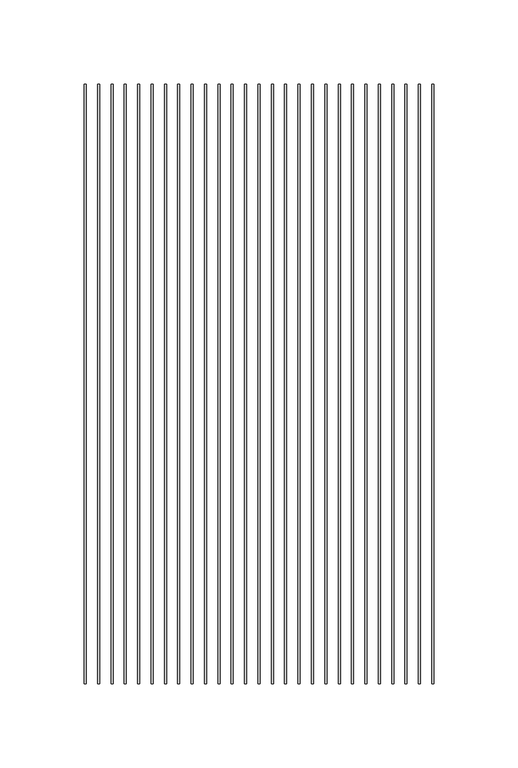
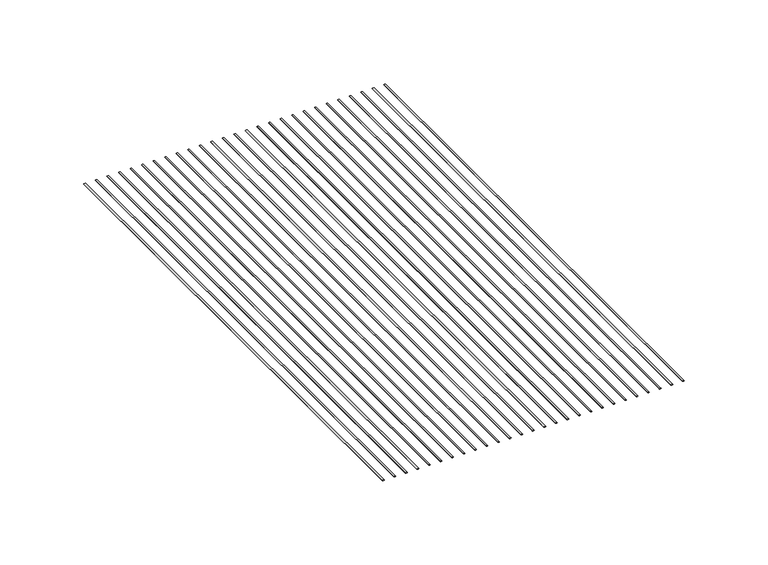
"""IFC4 building model written with IfcOpenShell, lengths in millimetres: proxy geometry, CRAi Generic Model Mesh Piece Face Based : CRAi Generic Model Mesh Piece Face Based."""

from ifc_helpers import new_model, si_unit, point, frame, origin, place, context, project, spatial, ellipse_curve, trimmed, source, transform, mapped, element, save
from ifc_brep_helpers import plane_surface, extruded_surface, advanced_brep


def generic_models_6aeff0d6(model_context):
    return source(origin(), model_context, "Body", "AdvancedBrep", [
        advanced_brep(
        [(-164.9015625, -177.8, -2.5796875), (-163.7109375, -177.8, -2.5796875), (-164.9015625, 177.8, -2.5796875), (-163.7109375, 177.8, -2.5796875)],
        [
            (0, 1, ellipse_curve(frame((-164.30625, -177.8, -2.5796875), z_axis=(0.0, -1.0, 0.0), x_axis=(1.0, 0.0, 0.0)), 0.5953125, 0.1984375)),
            (1, 0, ellipse_curve(frame((-164.30625, -177.8, -2.5796875), z_axis=(0.0, -1.0, 0.0), x_axis=(1.0, 0.0, 0.0)), 0.5953125, 0.1984375)),
            (2, 3, ellipse_curve(frame((-164.30625, 177.8, -2.5796875), z_axis=(0.0, 1.0, 0.0), x_axis=(1.0, 0.0, 0.0)), 0.5953125, 0.1984375)),
            (3, 2, ellipse_curve(frame((-164.30625, 177.8, -2.5796875), z_axis=(0.0, 1.0, 0.0), x_axis=(1.0, 0.0, 0.0)), 0.5953125, 0.1984375)),
            (0, 2),
            (3, 1),
        ],
        [
            plane_surface(frame((-164.30625, -177.8, -2.5796875), z_axis=(0.0, -1.0, 0.0), x_axis=(0.0, 0.0, 1.0))),
            plane_surface(frame((-164.30625, 177.8, -2.5796875), z_axis=(0.0, 1.0, 0.0), x_axis=(0.0, 0.0, 1.0))),
            extruded_surface(trimmed(ellipse_curve(frame((-164.30625, 177.8, -2.5796875), z_axis=(0.0, -1.0, 0.0), x_axis=(1.0, 0.0, 0.0)), 0.5953125, 0.1984375), [point((-164.9015625, 177.8, -2.5796875))], [point((-163.7109375, 177.8, -2.5796875))], True, "CARTESIAN"), (0.0, -355.6, 0.0), 355.6),
            extruded_surface(trimmed(ellipse_curve(frame((-164.30625, 177.8, -2.5796875), z_axis=(0.0, -1.0, 0.0), x_axis=(1.0, 0.0, 0.0)), 0.5953125, 0.1984375), [point((-163.7109375, 177.8, -2.5796875))], [point((-164.9015625, 177.8, -2.5796875))], True, "CARTESIAN"), (0.0, -355.6, 0.0), 355.6),
        ],
        [
            (0, [[1, 2]]),
            (1, [[3, 4]]),
            (2, [[-1, 5, -4, 6]]),
            (3, [[-2, -6, -3, -5]]),
        ],
    ),
        advanced_brep(
        [(-156.9640625, -177.8, -2.5796875), (-155.7734375, -177.8, -2.5796875), (-156.9640625, 177.8, -2.5796875), (-155.7734375, 177.8, -2.5796875)],
        [
            (0, 1, ellipse_curve(frame((-156.36875, -177.8, -2.5796875), z_axis=(0.0, -1.0, 0.0), x_axis=(1.0, 0.0, 0.0)), 0.5953125, 0.1984375)),
            (1, 0, ellipse_curve(frame((-156.36875, -177.8, -2.5796875), z_axis=(0.0, -1.0, 0.0), x_axis=(1.0, 0.0, 0.0)), 0.5953125, 0.1984375)),
            (2, 3, ellipse_curve(frame((-156.36875, 177.8, -2.5796875), z_axis=(0.0, 1.0, 0.0), x_axis=(1.0, 0.0, 0.0)), 0.5953125, 0.1984375)),
            (3, 2, ellipse_curve(frame((-156.36875, 177.8, -2.5796875), z_axis=(0.0, 1.0, 0.0), x_axis=(1.0, 0.0, 0.0)), 0.5953125, 0.1984375)),
            (0, 2),
            (3, 1),
        ],
        [
            plane_surface(frame((-156.36875, -177.8, -2.5796875), z_axis=(0.0, -1.0, 0.0), x_axis=(0.0, 0.0, 1.0))),
            plane_surface(frame((-156.36875, 177.8, -2.5796875), z_axis=(0.0, 1.0, 0.0), x_axis=(0.0, 0.0, 1.0))),
            extruded_surface(trimmed(ellipse_curve(frame((-156.36875, 177.8, -2.5796875), z_axis=(0.0, -1.0, 0.0), x_axis=(1.0, 0.0, 0.0)), 0.5953125, 0.1984375), [point((-156.9640625, 177.8, -2.5796875))], [point((-155.7734375, 177.8, -2.5796875))], True, "CARTESIAN"), (0.0, -355.6, 0.0), 355.6),
            extruded_surface(trimmed(ellipse_curve(frame((-156.36875, 177.8, -2.5796875), z_axis=(0.0, -1.0, 0.0), x_axis=(1.0, 0.0, 0.0)), 0.5953125, 0.1984375), [point((-155.7734375, 177.8, -2.5796875))], [point((-156.9640625, 177.8, -2.5796875))], True, "CARTESIAN"), (0.0, -355.6, 0.0), 355.6),
        ],
        [
            (0, [[1, 2]]),
            (1, [[3, 4]]),
            (2, [[-1, 5, -4, 6]]),
            (3, [[-2, -6, -3, -5]]),
        ],
    ),
        advanced_brep(
        [(-149.0265625, -177.8, -2.5796875), (-147.8359375, -177.8, -2.5796875), (-149.0265625, 177.8, -2.5796875), (-147.8359375, 177.8, -2.5796875)],
        [
            (0, 1, ellipse_curve(frame((-148.43125, -177.8, -2.5796875), z_axis=(0.0, -1.0, 0.0), x_axis=(1.0, 0.0, 0.0)), 0.5953125, 0.1984375)),
            (1, 0, ellipse_curve(frame((-148.43125, -177.8, -2.5796875), z_axis=(0.0, -1.0, 0.0), x_axis=(1.0, 0.0, 0.0)), 0.5953125, 0.1984375)),
            (2, 3, ellipse_curve(frame((-148.43125, 177.8, -2.5796875), z_axis=(0.0, 1.0, 0.0), x_axis=(1.0, 0.0, 0.0)), 0.5953125, 0.1984375)),
            (3, 2, ellipse_curve(frame((-148.43125, 177.8, -2.5796875), z_axis=(0.0, 1.0, 0.0), x_axis=(1.0, 0.0, 0.0)), 0.5953125, 0.1984375)),
            (0, 2),
            (3, 1),
        ],
        [
            plane_surface(frame((-148.43125, -177.8, -2.5796875), z_axis=(0.0, -1.0, 0.0), x_axis=(0.0, 0.0, 1.0))),
            plane_surface(frame((-148.43125, 177.8, -2.5796875), z_axis=(0.0, 1.0, 0.0), x_axis=(0.0, 0.0, 1.0))),
            extruded_surface(trimmed(ellipse_curve(frame((-148.43125, 177.8, -2.5796875), z_axis=(0.0, -1.0, 0.0), x_axis=(1.0, 0.0, 0.0)), 0.5953125, 0.1984375), [point((-149.0265625, 177.8, -2.5796875))], [point((-147.8359375, 177.8, -2.5796875))], True, "CARTESIAN"), (0.0, -355.6, 0.0), 355.6),
            extruded_surface(trimmed(ellipse_curve(frame((-148.43125, 177.8, -2.5796875), z_axis=(0.0, -1.0, 0.0), x_axis=(1.0, 0.0, 0.0)), 0.5953125, 0.1984375), [point((-147.8359375, 177.8, -2.5796875))], [point((-149.0265625, 177.8, -2.5796875))], True, "CARTESIAN"), (0.0, -355.6, 0.0), 355.6),
        ],
        [
            (0, [[1, 2]]),
            (1, [[3, 4]]),
            (2, [[-1, 5, -4, 6]]),
            (3, [[-2, -6, -3, -5]]),
        ],
    ),
        advanced_brep(
        [(-141.0890625, -177.8, -2.5796875), (-139.8984375, -177.8, -2.5796875), (-141.0890625, 177.8, -2.5796875), (-139.8984375, 177.8, -2.5796875)],
        [
            (0, 1, ellipse_curve(frame((-140.49375, -177.8, -2.5796875), z_axis=(0.0, -1.0, 0.0), x_axis=(1.0, 0.0, 0.0)), 0.5953125, 0.1984375)),
            (1, 0, ellipse_curve(frame((-140.49375, -177.8, -2.5796875), z_axis=(0.0, -1.0, 0.0), x_axis=(1.0, 0.0, 0.0)), 0.5953125, 0.1984375)),
            (2, 3, ellipse_curve(frame((-140.49375, 177.8, -2.5796875), z_axis=(0.0, 1.0, 0.0), x_axis=(1.0, 0.0, 0.0)), 0.5953125, 0.1984375)),
            (3, 2, ellipse_curve(frame((-140.49375, 177.8, -2.5796875), z_axis=(0.0, 1.0, 0.0), x_axis=(1.0, 0.0, 0.0)), 0.5953125, 0.1984375)),
            (0, 2),
            (3, 1),
        ],
        [
            plane_surface(frame((-140.49375, -177.8, -2.5796875), z_axis=(0.0, -1.0, 0.0), x_axis=(0.0, 0.0, 1.0))),
            plane_surface(frame((-140.49375, 177.8, -2.5796875), z_axis=(0.0, 1.0, 0.0), x_axis=(0.0, 0.0, 1.0))),
            extruded_surface(trimmed(ellipse_curve(frame((-140.49375, 177.8, -2.5796875), z_axis=(0.0, -1.0, 0.0), x_axis=(1.0, 0.0, 0.0)), 0.5953125, 0.1984375), [point((-141.0890625, 177.8, -2.5796875))], [point((-139.8984375, 177.8, -2.5796875))], True, "CARTESIAN"), (0.0, -355.6, 0.0), 355.6),
            extruded_surface(trimmed(ellipse_curve(frame((-140.49375, 177.8, -2.5796875), z_axis=(0.0, -1.0, 0.0), x_axis=(1.0, 0.0, 0.0)), 0.5953125, 0.1984375), [point((-139.8984375, 177.8, -2.5796875))], [point((-141.0890625, 177.8, -2.5796875))], True, "CARTESIAN"), (0.0, -355.6, 0.0), 355.6),
        ],
        [
            (0, [[1, 2]]),
            (1, [[3, 4]]),
            (2, [[-1, 5, -4, 6]]),
            (3, [[-2, -6, -3, -5]]),
        ],
    ),
        advanced_brep(
        [(-133.1515625, -177.8, -2.5796875), (-131.9609375, -177.8, -2.5796875), (-133.1515625, 177.8, -2.5796875), (-131.9609375, 177.8, -2.5796875)],
        [
            (0, 1, ellipse_curve(frame((-132.55625, -177.8, -2.5796875), z_axis=(0.0, -1.0, 0.0), x_axis=(1.0, 0.0, 0.0)), 0.5953125, 0.1984375)),
            (1, 0, ellipse_curve(frame((-132.55625, -177.8, -2.5796875), z_axis=(0.0, -1.0, 0.0), x_axis=(1.0, 0.0, 0.0)), 0.5953125, 0.1984375)),
            (2, 3, ellipse_curve(frame((-132.55625, 177.8, -2.5796875), z_axis=(0.0, 1.0, 0.0), x_axis=(1.0, 0.0, 0.0)), 0.5953125, 0.1984375)),
            (3, 2, ellipse_curve(frame((-132.55625, 177.8, -2.5796875), z_axis=(0.0, 1.0, 0.0), x_axis=(1.0, 0.0, 0.0)), 0.5953125, 0.1984375)),
            (0, 2),
            (3, 1),
        ],
        [
            plane_surface(frame((-132.55625, -177.8, -2.5796875), z_axis=(0.0, -1.0, 0.0), x_axis=(0.0, 0.0, 1.0))),
            plane_surface(frame((-132.55625, 177.8, -2.5796875), z_axis=(0.0, 1.0, 0.0), x_axis=(0.0, 0.0, 1.0))),
            extruded_surface(trimmed(ellipse_curve(frame((-132.55625, 177.8, -2.5796875), z_axis=(0.0, -1.0, 0.0), x_axis=(1.0, 0.0, 0.0)), 0.5953125, 0.1984375), [point((-133.1515625, 177.8, -2.5796875))], [point((-131.9609375, 177.8, -2.5796875))], True, "CARTESIAN"), (0.0, -355.6, 0.0), 355.6),
            extruded_surface(trimmed(ellipse_curve(frame((-132.55625, 177.8, -2.5796875), z_axis=(0.0, -1.0, 0.0), x_axis=(1.0, 0.0, 0.0)), 0.5953125, 0.1984375), [point((-131.9609375, 177.8, -2.5796875))], [point((-133.1515625, 177.8, -2.5796875))], True, "CARTESIAN"), (0.0, -355.6, 0.0), 355.6),
        ],
        [
            (0, [[1, 2]]),
            (1, [[3, 4]]),
            (2, [[-1, 5, -4, 6]]),
            (3, [[-2, -6, -3, -5]]),
        ],
    ),
        advanced_brep(
        [(-125.2140625, -177.8, -2.5796875), (-124.0234375, -177.8, -2.5796875), (-125.2140625, 177.8, -2.5796875), (-124.0234375, 177.8, -2.5796875)],
        [
            (0, 1, ellipse_curve(frame((-124.61875, -177.8, -2.5796875), z_axis=(0.0, -1.0, 0.0), x_axis=(1.0, 0.0, 0.0)), 0.5953125, 0.1984375)),
            (1, 0, ellipse_curve(frame((-124.61875, -177.8, -2.5796875), z_axis=(0.0, -1.0, 0.0), x_axis=(1.0, 0.0, 0.0)), 0.5953125, 0.1984375)),
            (2, 3, ellipse_curve(frame((-124.61875, 177.8, -2.5796875), z_axis=(0.0, 1.0, 0.0), x_axis=(1.0, 0.0, 0.0)), 0.5953125, 0.1984375)),
            (3, 2, ellipse_curve(frame((-124.61875, 177.8, -2.5796875), z_axis=(0.0, 1.0, 0.0), x_axis=(1.0, 0.0, 0.0)), 0.5953125, 0.1984375)),
            (0, 2),
            (3, 1),
        ],
        [
            plane_surface(frame((-124.61875, -177.8, -2.5796875), z_axis=(0.0, -1.0, 0.0), x_axis=(0.0, 0.0, 1.0))),
            plane_surface(frame((-124.61875, 177.8, -2.5796875), z_axis=(0.0, 1.0, 0.0), x_axis=(0.0, 0.0, 1.0))),
            extruded_surface(trimmed(ellipse_curve(frame((-124.61875, 177.8, -2.5796875), z_axis=(0.0, -1.0, 0.0), x_axis=(1.0, 0.0, 0.0)), 0.5953125, 0.1984375), [point((-125.2140625, 177.8, -2.5796875))], [point((-124.0234375, 177.8, -2.5796875))], True, "CARTESIAN"), (0.0, -355.6, 0.0), 355.6),
            extruded_surface(trimmed(ellipse_curve(frame((-124.61875, 177.8, -2.5796875), z_axis=(0.0, -1.0, 0.0), x_axis=(1.0, 0.0, 0.0)), 0.5953125, 0.1984375), [point((-124.0234375, 177.8, -2.5796875))], [point((-125.2140625, 177.8, -2.5796875))], True, "CARTESIAN"), (0.0, -355.6, 0.0), 355.6),
        ],
        [
            (0, [[1, 2]]),
            (1, [[3, 4]]),
            (2, [[-1, 5, -4, 6]]),
            (3, [[-2, -6, -3, -5]]),
        ],
    ),
        advanced_brep(
        [(-117.2765625, -177.8, -2.5796875), (-116.0859375, -177.8, -2.5796875), (-117.2765625, 177.8, -2.5796875), (-116.0859375, 177.8, -2.5796875)],
        [
            (0, 1, ellipse_curve(frame((-116.68125, -177.8, -2.5796875), z_axis=(0.0, -1.0, 0.0), x_axis=(1.0, 0.0, 0.0)), 0.5953125, 0.1984375)),
            (1, 0, ellipse_curve(frame((-116.68125, -177.8, -2.5796875), z_axis=(0.0, -1.0, 0.0), x_axis=(1.0, 0.0, 0.0)), 0.5953125, 0.1984375)),
            (2, 3, ellipse_curve(frame((-116.68125, 177.8, -2.5796875), z_axis=(0.0, 1.0, 0.0), x_axis=(1.0, 0.0, 0.0)), 0.5953125, 0.1984375)),
            (3, 2, ellipse_curve(frame((-116.68125, 177.8, -2.5796875), z_axis=(0.0, 1.0, 0.0), x_axis=(1.0, 0.0, 0.0)), 0.5953125, 0.1984375)),
            (0, 2),
            (3, 1),
        ],
        [
            plane_surface(frame((-116.68125, -177.8, -2.5796875), z_axis=(0.0, -1.0, 0.0), x_axis=(0.0, 0.0, 1.0))),
            plane_surface(frame((-116.68125, 177.8, -2.5796875), z_axis=(0.0, 1.0, 0.0), x_axis=(0.0, 0.0, 1.0))),
            extruded_surface(trimmed(ellipse_curve(frame((-116.68125, 177.8, -2.5796875), z_axis=(0.0, -1.0, 0.0), x_axis=(1.0, 0.0, 0.0)), 0.5953125, 0.1984375), [point((-117.2765625, 177.8, -2.5796875))], [point((-116.0859375, 177.8, -2.5796875))], True, "CARTESIAN"), (0.0, -355.6, 0.0), 355.6),
            extruded_surface(trimmed(ellipse_curve(frame((-116.68125, 177.8, -2.5796875), z_axis=(0.0, -1.0, 0.0), x_axis=(1.0, 0.0, 0.0)), 0.5953125, 0.1984375), [point((-116.0859375, 177.8, -2.5796875))], [point((-117.2765625, 177.8, -2.5796875))], True, "CARTESIAN"), (0.0, -355.6, 0.0), 355.6),
        ],
        [
            (0, [[1, 2]]),
            (1, [[3, 4]]),
            (2, [[-1, 5, -4, 6]]),
            (3, [[-2, -6, -3, -5]]),
        ],
    ),
        advanced_brep(
        [(-109.3390625, -177.8, -2.5796875), (-108.1484375, -177.8, -2.5796875), (-109.3390625, 177.8, -2.5796875), (-108.1484375, 177.8, -2.5796875)],
        [
            (0, 1, ellipse_curve(frame((-108.74375, -177.8, -2.5796875), z_axis=(0.0, -1.0, 0.0), x_axis=(1.0, 0.0, 0.0)), 0.5953125, 0.1984375)),
            (1, 0, ellipse_curve(frame((-108.74375, -177.8, -2.5796875), z_axis=(0.0, -1.0, 0.0), x_axis=(1.0, 0.0, 0.0)), 0.5953125, 0.1984375)),
            (2, 3, ellipse_curve(frame((-108.74375, 177.8, -2.5796875), z_axis=(0.0, 1.0, 0.0), x_axis=(1.0, 0.0, 0.0)), 0.5953125, 0.1984375)),
            (3, 2, ellipse_curve(frame((-108.74375, 177.8, -2.5796875), z_axis=(0.0, 1.0, 0.0), x_axis=(1.0, 0.0, 0.0)), 0.5953125, 0.1984375)),
            (0, 2),
            (3, 1),
        ],
        [
            plane_surface(frame((-108.74375, -177.8, -2.5796875), z_axis=(0.0, -1.0, 0.0), x_axis=(0.0, 0.0, 1.0))),
            plane_surface(frame((-108.74375, 177.8, -2.5796875), z_axis=(0.0, 1.0, 0.0), x_axis=(0.0, 0.0, 1.0))),
            extruded_surface(trimmed(ellipse_curve(frame((-108.74375, 177.8, -2.5796875), z_axis=(0.0, -1.0, 0.0), x_axis=(1.0, 0.0, 0.0)), 0.5953125, 0.1984375), [point((-109.3390625, 177.8, -2.5796875))], [point((-108.1484375, 177.8, -2.5796875))], True, "CARTESIAN"), (0.0, -355.6, 0.0), 355.6),
            extruded_surface(trimmed(ellipse_curve(frame((-108.74375, 177.8, -2.5796875), z_axis=(0.0, -1.0, 0.0), x_axis=(1.0, 0.0, 0.0)), 0.5953125, 0.1984375), [point((-108.1484375, 177.8, -2.5796875))], [point((-109.3390625, 177.8, -2.5796875))], True, "CARTESIAN"), (0.0, -355.6, 0.0), 355.6),
        ],
        [
            (0, [[1, 2]]),
            (1, [[3, 4]]),
            (2, [[-1, 5, -4, 6]]),
            (3, [[-2, -6, -3, -5]]),
        ],
    ),
        advanced_brep(
        [(-101.4015625, -177.8, -2.5796875), (-100.2109375, -177.8, -2.5796875), (-101.4015625, 177.8, -2.5796875), (-100.2109375, 177.8, -2.5796875)],
        [
            (0, 1, ellipse_curve(frame((-100.80625, -177.8, -2.5796875), z_axis=(0.0, -1.0, 0.0), x_axis=(1.0, 0.0, 0.0)), 0.5953125, 0.1984375)),
            (1, 0, ellipse_curve(frame((-100.80625, -177.8, -2.5796875), z_axis=(0.0, -1.0, 0.0), x_axis=(1.0, 0.0, 0.0)), 0.5953125, 0.1984375)),
            (2, 3, ellipse_curve(frame((-100.80625, 177.8, -2.5796875), z_axis=(0.0, 1.0, 0.0), x_axis=(1.0, 0.0, 0.0)), 0.5953125, 0.1984375)),
            (3, 2, ellipse_curve(frame((-100.80625, 177.8, -2.5796875), z_axis=(0.0, 1.0, 0.0), x_axis=(1.0, 0.0, 0.0)), 0.5953125, 0.1984375)),
            (0, 2),
            (3, 1),
        ],
        [
            plane_surface(frame((-100.80625, -177.8, -2.5796875), z_axis=(0.0, -1.0, 0.0), x_axis=(0.0, 0.0, 1.0))),
            plane_surface(frame((-100.80625, 177.8, -2.5796875), z_axis=(0.0, 1.0, 0.0), x_axis=(0.0, 0.0, 1.0))),
            extruded_surface(trimmed(ellipse_curve(frame((-100.80625, 177.8, -2.5796875), z_axis=(0.0, -1.0, 0.0), x_axis=(1.0, 0.0, 0.0)), 0.5953125, 0.1984375), [point((-101.4015625, 177.8, -2.5796875))], [point((-100.2109375, 177.8, -2.5796875))], True, "CARTESIAN"), (0.0, -355.6, 0.0), 355.6),
            extruded_surface(trimmed(ellipse_curve(frame((-100.80625, 177.8, -2.5796875), z_axis=(0.0, -1.0, 0.0), x_axis=(1.0, 0.0, 0.0)), 0.5953125, 0.1984375), [point((-100.2109375, 177.8, -2.5796875))], [point((-101.4015625, 177.8, -2.5796875))], True, "CARTESIAN"), (0.0, -355.6, 0.0), 355.6),
        ],
        [
            (0, [[1, 2]]),
            (1, [[3, 4]]),
            (2, [[-1, 5, -4, 6]]),
            (3, [[-2, -6, -3, -5]]),
        ],
    ),
        advanced_brep(
        [(-93.4640625, -177.8, -2.5796875), (-92.2734375, -177.8, -2.5796875), (-93.4640625, 177.8, -2.5796875), (-92.2734375, 177.8, -2.5796875)],
        [
            (0, 1, ellipse_curve(frame((-92.86875, -177.8, -2.5796875), z_axis=(0.0, -1.0, 0.0), x_axis=(1.0, 0.0, 0.0)), 0.5953125, 0.1984375)),
            (1, 0, ellipse_curve(frame((-92.86875, -177.8, -2.5796875), z_axis=(0.0, -1.0, 0.0), x_axis=(1.0, 0.0, 0.0)), 0.5953125, 0.1984375)),
            (2, 3, ellipse_curve(frame((-92.86875, 177.8, -2.5796875), z_axis=(0.0, 1.0, 0.0), x_axis=(1.0, 0.0, 0.0)), 0.5953125, 0.1984375)),
            (3, 2, ellipse_curve(frame((-92.86875, 177.8, -2.5796875), z_axis=(0.0, 1.0, 0.0), x_axis=(1.0, 0.0, 0.0)), 0.5953125, 0.1984375)),
            (0, 2),
            (3, 1),
        ],
        [
            plane_surface(frame((-92.86875, -177.8, -2.5796875), z_axis=(0.0, -1.0, 0.0), x_axis=(0.0, 0.0, 1.0))),
            plane_surface(frame((-92.86875, 177.8, -2.5796875), z_axis=(0.0, 1.0, 0.0), x_axis=(0.0, 0.0, 1.0))),
            extruded_surface(trimmed(ellipse_curve(frame((-92.86875, 177.8, -2.5796875), z_axis=(0.0, -1.0, 0.0), x_axis=(1.0, 0.0, 0.0)), 0.5953125, 0.1984375), [point((-93.4640625, 177.8, -2.5796875))], [point((-92.2734375, 177.8, -2.5796875))], True, "CARTESIAN"), (0.0, -355.6, 0.0), 355.6),
            extruded_surface(trimmed(ellipse_curve(frame((-92.86875, 177.8, -2.5796875), z_axis=(0.0, -1.0, 0.0), x_axis=(1.0, 0.0, 0.0)), 0.5953125, 0.1984375), [point((-92.2734375, 177.8, -2.5796875))], [point((-93.4640625, 177.8, -2.5796875))], True, "CARTESIAN"), (0.0, -355.6, 0.0), 355.6),
        ],
        [
            (0, [[1, 2]]),
            (1, [[3, 4]]),
            (2, [[-1, 5, -4, 6]]),
            (3, [[-2, -6, -3, -5]]),
        ],
    ),
        advanced_brep(
        [(-85.5265625, -177.8, -2.5796875), (-84.3359375, -177.8, -2.5796875), (-85.5265625, 177.8, -2.5796875), (-84.3359375, 177.8, -2.5796875)],
        [
            (0, 1, ellipse_curve(frame((-84.93125, -177.8, -2.5796875), z_axis=(0.0, -1.0, 0.0), x_axis=(1.0, 0.0, 0.0)), 0.5953125, 0.1984375)),
            (1, 0, ellipse_curve(frame((-84.93125, -177.8, -2.5796875), z_axis=(0.0, -1.0, 0.0), x_axis=(1.0, 0.0, 0.0)), 0.5953125, 0.1984375)),
            (2, 3, ellipse_curve(frame((-84.93125, 177.8, -2.5796875), z_axis=(0.0, 1.0, 0.0), x_axis=(1.0, 0.0, 0.0)), 0.5953125, 0.1984375)),
            (3, 2, ellipse_curve(frame((-84.93125, 177.8, -2.5796875), z_axis=(0.0, 1.0, 0.0), x_axis=(1.0, 0.0, 0.0)), 0.5953125, 0.1984375)),
            (0, 2),
            (3, 1),
        ],
        [
            plane_surface(frame((-84.93125, -177.8, -2.5796875), z_axis=(0.0, -1.0, 0.0), x_axis=(0.0, 0.0, 1.0))),
            plane_surface(frame((-84.93125, 177.8, -2.5796875), z_axis=(0.0, 1.0, 0.0), x_axis=(0.0, 0.0, 1.0))),
            extruded_surface(trimmed(ellipse_curve(frame((-84.93125, 177.8, -2.5796875), z_axis=(0.0, -1.0, 0.0), x_axis=(1.0, 0.0, 0.0)), 0.5953125, 0.1984375), [point((-85.5265625, 177.8, -2.5796875))], [point((-84.3359375, 177.8, -2.5796875))], True, "CARTESIAN"), (0.0, -355.6, 0.0), 355.6),
            extruded_surface(trimmed(ellipse_curve(frame((-84.93125, 177.8, -2.5796875), z_axis=(0.0, -1.0, 0.0), x_axis=(1.0, 0.0, 0.0)), 0.5953125, 0.1984375), [point((-84.3359375, 177.8, -2.5796875))], [point((-85.5265625, 177.8, -2.5796875))], True, "CARTESIAN"), (0.0, -355.6, 0.0), 355.6),
        ],
        [
            (0, [[1, 2]]),
            (1, [[3, 4]]),
            (2, [[-1, 5, -4, 6]]),
            (3, [[-2, -6, -3, -5]]),
        ],
    ),
        advanced_brep(
        [(-77.5890625, -177.8, -2.5796875), (-76.3984375, -177.8, -2.5796875), (-77.5890625, 177.8, -2.5796875), (-76.3984375, 177.8, -2.5796875)],
        [
            (0, 1, ellipse_curve(frame((-76.99375, -177.8, -2.5796875), z_axis=(0.0, -1.0, 0.0), x_axis=(1.0, 0.0, 0.0)), 0.5953125, 0.1984375)),
            (1, 0, ellipse_curve(frame((-76.99375, -177.8, -2.5796875), z_axis=(0.0, -1.0, 0.0), x_axis=(1.0, 0.0, 0.0)), 0.5953125, 0.1984375)),
            (2, 3, ellipse_curve(frame((-76.99375, 177.8, -2.5796875), z_axis=(0.0, 1.0, 0.0), x_axis=(1.0, 0.0, 0.0)), 0.5953125, 0.1984375)),
            (3, 2, ellipse_curve(frame((-76.99375, 177.8, -2.5796875), z_axis=(0.0, 1.0, 0.0), x_axis=(1.0, 0.0, 0.0)), 0.5953125, 0.1984375)),
            (0, 2),
            (3, 1),
        ],
        [
            plane_surface(frame((-76.99375, -177.8, -2.5796875), z_axis=(0.0, -1.0, 0.0), x_axis=(0.0, 0.0, 1.0))),
            plane_surface(frame((-76.99375, 177.8, -2.5796875), z_axis=(0.0, 1.0, 0.0), x_axis=(0.0, 0.0, 1.0))),
            extruded_surface(trimmed(ellipse_curve(frame((-76.99375, 177.8, -2.5796875), z_axis=(0.0, -1.0, 0.0), x_axis=(1.0, 0.0, 0.0)), 0.5953125, 0.1984375), [point((-77.5890625, 177.8, -2.5796875))], [point((-76.3984375, 177.8, -2.5796875))], True, "CARTESIAN"), (0.0, -355.6, 0.0), 355.6),
            extruded_surface(trimmed(ellipse_curve(frame((-76.99375, 177.8, -2.5796875), z_axis=(0.0, -1.0, 0.0), x_axis=(1.0, 0.0, 0.0)), 0.5953125, 0.1984375), [point((-76.3984375, 177.8, -2.5796875))], [point((-77.5890625, 177.8, -2.5796875))], True, "CARTESIAN"), (0.0, -355.6, 0.0), 355.6),
        ],
        [
            (0, [[1, 2]]),
            (1, [[3, 4]]),
            (2, [[-1, 5, -4, 6]]),
            (3, [[-2, -6, -3, -5]]),
        ],
    ),
        advanced_brep(
        [(-69.6515625, -177.8, -2.5796875), (-68.4609375, -177.8, -2.5796875), (-69.6515625, 177.8, -2.5796875), (-68.4609375, 177.8, -2.5796875)],
        [
            (0, 1, ellipse_curve(frame((-69.05625, -177.8, -2.5796875), z_axis=(0.0, -1.0, 0.0), x_axis=(1.0, 0.0, 0.0)), 0.5953125, 0.1984375)),
            (1, 0, ellipse_curve(frame((-69.05625, -177.8, -2.5796875), z_axis=(0.0, -1.0, 0.0), x_axis=(1.0, 0.0, 0.0)), 0.5953125, 0.1984375)),
            (2, 3, ellipse_curve(frame((-69.05625, 177.8, -2.5796875), z_axis=(0.0, 1.0, 0.0), x_axis=(1.0, 0.0, 0.0)), 0.5953125, 0.1984375)),
            (3, 2, ellipse_curve(frame((-69.05625, 177.8, -2.5796875), z_axis=(0.0, 1.0, 0.0), x_axis=(1.0, 0.0, 0.0)), 0.5953125, 0.1984375)),
            (0, 2),
            (3, 1),
        ],
        [
            plane_surface(frame((-69.05625, -177.8, -2.5796875), z_axis=(0.0, -1.0, 0.0), x_axis=(0.0, 0.0, 1.0))),
            plane_surface(frame((-69.05625, 177.8, -2.5796875), z_axis=(0.0, 1.0, 0.0), x_axis=(0.0, 0.0, 1.0))),
            extruded_surface(trimmed(ellipse_curve(frame((-69.05625, 177.8, -2.5796875), z_axis=(0.0, -1.0, 0.0), x_axis=(1.0, 0.0, 0.0)), 0.5953125, 0.1984375), [point((-69.6515625, 177.8, -2.5796875))], [point((-68.4609375, 177.8, -2.5796875))], True, "CARTESIAN"), (0.0, -355.6, 0.0), 355.6),
            extruded_surface(trimmed(ellipse_curve(frame((-69.05625, 177.8, -2.5796875), z_axis=(0.0, -1.0, 0.0), x_axis=(1.0, 0.0, 0.0)), 0.5953125, 0.1984375), [point((-68.4609375, 177.8, -2.5796875))], [point((-69.6515625, 177.8, -2.5796875))], True, "CARTESIAN"), (0.0, -355.6, 0.0), 355.6),
        ],
        [
            (0, [[1, 2]]),
            (1, [[3, 4]]),
            (2, [[-1, 5, -4, 6]]),
            (3, [[-2, -6, -3, -5]]),
        ],
    ),
        advanced_brep(
        [(-61.7140625, -177.8, -2.5796875), (-60.5234375, -177.8, -2.5796875), (-61.7140625, 177.8, -2.5796875), (-60.5234375, 177.8, -2.5796875)],
        [
            (0, 1, ellipse_curve(frame((-61.11875, -177.8, -2.5796875), z_axis=(0.0, -1.0, 0.0), x_axis=(1.0, 0.0, 0.0)), 0.5953125, 0.1984375)),
            (1, 0, ellipse_curve(frame((-61.11875, -177.8, -2.5796875), z_axis=(0.0, -1.0, 0.0), x_axis=(1.0, 0.0, 0.0)), 0.5953125, 0.1984375)),
            (2, 3, ellipse_curve(frame((-61.11875, 177.8, -2.5796875), z_axis=(0.0, 1.0, 0.0), x_axis=(1.0, 0.0, 0.0)), 0.5953125, 0.1984375)),
            (3, 2, ellipse_curve(frame((-61.11875, 177.8, -2.5796875), z_axis=(0.0, 1.0, 0.0), x_axis=(1.0, 0.0, 0.0)), 0.5953125, 0.1984375)),
            (0, 2),
            (3, 1),
        ],
        [
            plane_surface(frame((-61.11875, -177.8, -2.5796875), z_axis=(0.0, -1.0, 0.0), x_axis=(0.0, 0.0, 1.0))),
            plane_surface(frame((-61.11875, 177.8, -2.5796875), z_axis=(0.0, 1.0, 0.0), x_axis=(0.0, 0.0, 1.0))),
            extruded_surface(trimmed(ellipse_curve(frame((-61.11875, 177.8, -2.5796875), z_axis=(0.0, -1.0, 0.0), x_axis=(1.0, 0.0, 0.0)), 0.5953125, 0.1984375), [point((-61.7140625, 177.8, -2.5796875))], [point((-60.5234375, 177.8, -2.5796875))], True, "CARTESIAN"), (0.0, -355.6, 0.0), 355.6),
            extruded_surface(trimmed(ellipse_curve(frame((-61.11875, 177.8, -2.5796875), z_axis=(0.0, -1.0, 0.0), x_axis=(1.0, 0.0, 0.0)), 0.5953125, 0.1984375), [point((-60.5234375, 177.8, -2.5796875))], [point((-61.7140625, 177.8, -2.5796875))], True, "CARTESIAN"), (0.0, -355.6, 0.0), 355.6),
        ],
        [
            (0, [[1, 2]]),
            (1, [[3, 4]]),
            (2, [[-1, 5, -4, 6]]),
            (3, [[-2, -6, -3, -5]]),
        ],
    ),
        advanced_brep(
        [(-53.7765625, -177.8, -2.5796875), (-52.5859375, -177.8, -2.5796875), (-53.7765625, 177.8, -2.5796875), (-52.5859375, 177.8, -2.5796875)],
        [
            (0, 1, ellipse_curve(frame((-53.18125, -177.8, -2.5796875), z_axis=(0.0, -1.0, 0.0), x_axis=(1.0, 0.0, 0.0)), 0.5953125, 0.1984375)),
            (1, 0, ellipse_curve(frame((-53.18125, -177.8, -2.5796875), z_axis=(0.0, -1.0, 0.0), x_axis=(1.0, 0.0, 0.0)), 0.5953125, 0.1984375)),
            (2, 3, ellipse_curve(frame((-53.18125, 177.8, -2.5796875), z_axis=(0.0, 1.0, 0.0), x_axis=(1.0, 0.0, 0.0)), 0.5953125, 0.1984375)),
            (3, 2, ellipse_curve(frame((-53.18125, 177.8, -2.5796875), z_axis=(0.0, 1.0, 0.0), x_axis=(1.0, 0.0, 0.0)), 0.5953125, 0.1984375)),
            (0, 2),
            (3, 1),
        ],
        [
            plane_surface(frame((-53.18125, -177.8, -2.5796875), z_axis=(0.0, -1.0, 0.0), x_axis=(0.0, 0.0, 1.0))),
            plane_surface(frame((-53.18125, 177.8, -2.5796875), z_axis=(0.0, 1.0, 0.0), x_axis=(0.0, 0.0, 1.0))),
            extruded_surface(trimmed(ellipse_curve(frame((-53.18125, 177.8, -2.5796875), z_axis=(0.0, -1.0, 0.0), x_axis=(1.0, 0.0, 0.0)), 0.5953125, 0.1984375), [point((-53.7765625, 177.8, -2.5796875))], [point((-52.5859375, 177.8, -2.5796875))], True, "CARTESIAN"), (0.0, -355.6, 0.0), 355.6),
            extruded_surface(trimmed(ellipse_curve(frame((-53.18125, 177.8, -2.5796875), z_axis=(0.0, -1.0, 0.0), x_axis=(1.0, 0.0, 0.0)), 0.5953125, 0.1984375), [point((-52.5859375, 177.8, -2.5796875))], [point((-53.7765625, 177.8, -2.5796875))], True, "CARTESIAN"), (0.0, -355.6, 0.0), 355.6),
        ],
        [
            (0, [[1, 2]]),
            (1, [[3, 4]]),
            (2, [[-1, 5, -4, 6]]),
            (3, [[-2, -6, -3, -5]]),
        ],
    ),
        advanced_brep(
        [(-45.8390625, -177.8, -2.5796875), (-44.6484375, -177.8, -2.5796875), (-45.8390625, 177.8, -2.5796875), (-44.6484375, 177.8, -2.5796875)],
        [
            (0, 1, ellipse_curve(frame((-45.24375, -177.8, -2.5796875), z_axis=(0.0, -1.0, 0.0), x_axis=(1.0, 0.0, 0.0)), 0.5953125, 0.1984375)),
            (1, 0, ellipse_curve(frame((-45.24375, -177.8, -2.5796875), z_axis=(0.0, -1.0, 0.0), x_axis=(1.0, 0.0, 0.0)), 0.5953125, 0.1984375)),
            (2, 3, ellipse_curve(frame((-45.24375, 177.8, -2.5796875), z_axis=(0.0, 1.0, 0.0), x_axis=(1.0, 0.0, 0.0)), 0.5953125, 0.1984375)),
            (3, 2, ellipse_curve(frame((-45.24375, 177.8, -2.5796875), z_axis=(0.0, 1.0, 0.0), x_axis=(1.0, 0.0, 0.0)), 0.5953125, 0.1984375)),
            (0, 2),
            (3, 1),
        ],
        [
            plane_surface(frame((-45.24375, -177.8, -2.5796875), z_axis=(0.0, -1.0, 0.0), x_axis=(0.0, 0.0, 1.0))),
            plane_surface(frame((-45.24375, 177.8, -2.5796875), z_axis=(0.0, 1.0, 0.0), x_axis=(0.0, 0.0, 1.0))),
            extruded_surface(trimmed(ellipse_curve(frame((-45.24375, 177.8, -2.5796875), z_axis=(0.0, -1.0, 0.0), x_axis=(1.0, 0.0, 0.0)), 0.5953125, 0.1984375), [point((-45.8390625, 177.8, -2.5796875))], [point((-44.6484375, 177.8, -2.5796875))], True, "CARTESIAN"), (0.0, -355.6, 0.0), 355.6),
            extruded_surface(trimmed(ellipse_curve(frame((-45.24375, 177.8, -2.5796875), z_axis=(0.0, -1.0, 0.0), x_axis=(1.0, 0.0, 0.0)), 0.5953125, 0.1984375), [point((-44.6484375, 177.8, -2.5796875))], [point((-45.8390625, 177.8, -2.5796875))], True, "CARTESIAN"), (0.0, -355.6, 0.0), 355.6),
        ],
        [
            (0, [[1, 2]]),
            (1, [[3, 4]]),
            (2, [[-1, 5, -4, 6]]),
            (3, [[-2, -6, -3, -5]]),
        ],
    ),
        advanced_brep(
        [(-37.9015625, -177.8, -2.5796875), (-36.7109375, -177.8, -2.5796875), (-37.9015625, 177.8, -2.5796875), (-36.7109375, 177.8, -2.5796875)],
        [
            (0, 1, ellipse_curve(frame((-37.30625, -177.8, -2.5796875), z_axis=(0.0, -1.0, 0.0), x_axis=(1.0, 0.0, 0.0)), 0.5953125, 0.1984375)),
            (1, 0, ellipse_curve(frame((-37.30625, -177.8, -2.5796875), z_axis=(0.0, -1.0, 0.0), x_axis=(1.0, 0.0, 0.0)), 0.5953125, 0.1984375)),
            (2, 3, ellipse_curve(frame((-37.30625, 177.8, -2.5796875), z_axis=(0.0, 1.0, 0.0), x_axis=(1.0, 0.0, 0.0)), 0.5953125, 0.1984375)),
            (3, 2, ellipse_curve(frame((-37.30625, 177.8, -2.5796875), z_axis=(0.0, 1.0, 0.0), x_axis=(1.0, 0.0, 0.0)), 0.5953125, 0.1984375)),
            (0, 2),
            (3, 1),
        ],
        [
            plane_surface(frame((-37.30625, -177.8, -2.5796875), z_axis=(0.0, -1.0, 0.0), x_axis=(0.0, 0.0, 1.0))),
            plane_surface(frame((-37.30625, 177.8, -2.5796875), z_axis=(0.0, 1.0, 0.0), x_axis=(0.0, 0.0, 1.0))),
            extruded_surface(trimmed(ellipse_curve(frame((-37.30625, 177.8, -2.5796875), z_axis=(0.0, -1.0, 0.0), x_axis=(1.0, 0.0, 0.0)), 0.5953125, 0.1984375), [point((-37.9015625, 177.8, -2.5796875))], [point((-36.7109375, 177.8, -2.5796875))], True, "CARTESIAN"), (0.0, -355.6, 0.0), 355.6),
            extruded_surface(trimmed(ellipse_curve(frame((-37.30625, 177.8, -2.5796875), z_axis=(0.0, -1.0, 0.0), x_axis=(1.0, 0.0, 0.0)), 0.5953125, 0.1984375), [point((-36.7109375, 177.8, -2.5796875))], [point((-37.9015625, 177.8, -2.5796875))], True, "CARTESIAN"), (0.0, -355.6, 0.0), 355.6),
        ],
        [
            (0, [[1, 2]]),
            (1, [[3, 4]]),
            (2, [[-1, 5, -4, 6]]),
            (3, [[-2, -6, -3, -5]]),
        ],
    ),
        advanced_brep(
        [(-29.9640625, -177.8, -2.5796875), (-28.7734375, -177.8, -2.5796875), (-29.9640625, 177.8, -2.5796875), (-28.7734375, 177.8, -2.5796875)],
        [
            (0, 1, ellipse_curve(frame((-29.36875, -177.8, -2.5796875), z_axis=(0.0, -1.0, 0.0), x_axis=(1.0, 0.0, 0.0)), 0.5953125, 0.1984375)),
            (1, 0, ellipse_curve(frame((-29.36875, -177.8, -2.5796875), z_axis=(0.0, -1.0, 0.0), x_axis=(1.0, 0.0, 0.0)), 0.5953125, 0.1984375)),
            (2, 3, ellipse_curve(frame((-29.36875, 177.8, -2.5796875), z_axis=(0.0, 1.0, 0.0), x_axis=(1.0, 0.0, 0.0)), 0.5953125, 0.1984375)),
            (3, 2, ellipse_curve(frame((-29.36875, 177.8, -2.5796875), z_axis=(0.0, 1.0, 0.0), x_axis=(1.0, 0.0, 0.0)), 0.5953125, 0.1984375)),
            (0, 2),
            (3, 1),
        ],
        [
            plane_surface(frame((-29.36875, -177.8, -2.5796875), z_axis=(0.0, -1.0, 0.0), x_axis=(0.0, 0.0, 1.0))),
            plane_surface(frame((-29.36875, 177.8, -2.5796875), z_axis=(0.0, 1.0, 0.0), x_axis=(0.0, 0.0, 1.0))),
            extruded_surface(trimmed(ellipse_curve(frame((-29.36875, 177.8, -2.5796875), z_axis=(0.0, -1.0, 0.0), x_axis=(1.0, 0.0, 0.0)), 0.5953125, 0.1984375), [point((-29.9640625, 177.8, -2.5796875))], [point((-28.7734375, 177.8, -2.5796875))], True, "CARTESIAN"), (0.0, -355.6, 0.0), 355.6),
            extruded_surface(trimmed(ellipse_curve(frame((-29.36875, 177.8, -2.5796875), z_axis=(0.0, -1.0, 0.0), x_axis=(1.0, 0.0, 0.0)), 0.5953125, 0.1984375), [point((-28.7734375, 177.8, -2.5796875))], [point((-29.9640625, 177.8, -2.5796875))], True, "CARTESIAN"), (0.0, -355.6, 0.0), 355.6),
        ],
        [
            (0, [[1, 2]]),
            (1, [[3, 4]]),
            (2, [[-1, 5, -4, 6]]),
            (3, [[-2, -6, -3, -5]]),
        ],
    ),
        advanced_brep(
        [(-22.0265625, -177.8, -2.5796875), (-20.8359375, -177.8, -2.5796875), (-22.0265625, 177.8, -2.5796875), (-20.8359375, 177.8, -2.5796875)],
        [
            (0, 1, ellipse_curve(frame((-21.43125, -177.8, -2.5796875), z_axis=(0.0, -1.0, 0.0), x_axis=(1.0, 0.0, 0.0)), 0.5953125, 0.1984375)),
            (1, 0, ellipse_curve(frame((-21.43125, -177.8, -2.5796875), z_axis=(0.0, -1.0, 0.0), x_axis=(1.0, 0.0, 0.0)), 0.5953125, 0.1984375)),
            (2, 3, ellipse_curve(frame((-21.43125, 177.8, -2.5796875), z_axis=(0.0, 1.0, 0.0), x_axis=(1.0, 0.0, 0.0)), 0.5953125, 0.1984375)),
            (3, 2, ellipse_curve(frame((-21.43125, 177.8, -2.5796875), z_axis=(0.0, 1.0, 0.0), x_axis=(1.0, 0.0, 0.0)), 0.5953125, 0.1984375)),
            (0, 2),
            (3, 1),
        ],
        [
            plane_surface(frame((-21.43125, -177.8, -2.5796875), z_axis=(0.0, -1.0, 0.0), x_axis=(0.0, 0.0, 1.0))),
            plane_surface(frame((-21.43125, 177.8, -2.5796875), z_axis=(0.0, 1.0, 0.0), x_axis=(0.0, 0.0, 1.0))),
            extruded_surface(trimmed(ellipse_curve(frame((-21.43125, 177.8, -2.5796875), z_axis=(0.0, -1.0, 0.0), x_axis=(1.0, 0.0, 0.0)), 0.5953125, 0.1984375), [point((-22.0265625, 177.8, -2.5796875))], [point((-20.8359375, 177.8, -2.5796875))], True, "CARTESIAN"), (0.0, -355.6, 0.0), 355.6),
            extruded_surface(trimmed(ellipse_curve(frame((-21.43125, 177.8, -2.5796875), z_axis=(0.0, -1.0, 0.0), x_axis=(1.0, 0.0, 0.0)), 0.5953125, 0.1984375), [point((-20.8359375, 177.8, -2.5796875))], [point((-22.0265625, 177.8, -2.5796875))], True, "CARTESIAN"), (0.0, -355.6, 0.0), 355.6),
        ],
        [
            (0, [[1, 2]]),
            (1, [[3, 4]]),
            (2, [[-1, 5, -4, 6]]),
            (3, [[-2, -6, -3, -5]]),
        ],
    ),
        advanced_brep(
        [(-14.0890625, -177.8, -2.5796875), (-12.8984375, -177.8, -2.5796875), (-14.0890625, 177.8, -2.5796875), (-12.8984375, 177.8, -2.5796875)],
        [
            (0, 1, ellipse_curve(frame((-13.49375, -177.8, -2.5796875), z_axis=(0.0, -1.0, 0.0), x_axis=(1.0, 0.0, 0.0)), 0.5953125, 0.1984375)),
            (1, 0, ellipse_curve(frame((-13.49375, -177.8, -2.5796875), z_axis=(0.0, -1.0, 0.0), x_axis=(1.0, 0.0, 0.0)), 0.5953125, 0.1984375)),
            (2, 3, ellipse_curve(frame((-13.49375, 177.8, -2.5796875), z_axis=(0.0, 1.0, 0.0), x_axis=(1.0, 0.0, 0.0)), 0.5953125, 0.1984375)),
            (3, 2, ellipse_curve(frame((-13.49375, 177.8, -2.5796875), z_axis=(0.0, 1.0, 0.0), x_axis=(1.0, 0.0, 0.0)), 0.5953125, 0.1984375)),
            (0, 2),
            (3, 1),
        ],
        [
            plane_surface(frame((-13.49375, -177.8, -2.5796875), z_axis=(0.0, -1.0, 0.0), x_axis=(0.0, 0.0, 1.0))),
            plane_surface(frame((-13.49375, 177.8, -2.5796875), z_axis=(0.0, 1.0, 0.0), x_axis=(0.0, 0.0, 1.0))),
            extruded_surface(trimmed(ellipse_curve(frame((-13.49375, 177.8, -2.5796875), z_axis=(0.0, -1.0, 0.0), x_axis=(1.0, 0.0, 0.0)), 0.5953125, 0.1984375), [point((-14.0890625, 177.8, -2.5796875))], [point((-12.8984375, 177.8, -2.5796875))], True, "CARTESIAN"), (0.0, -355.6, 0.0), 355.6),
            extruded_surface(trimmed(ellipse_curve(frame((-13.49375, 177.8, -2.5796875), z_axis=(0.0, -1.0, 0.0), x_axis=(1.0, 0.0, 0.0)), 0.5953125, 0.1984375), [point((-12.8984375, 177.8, -2.5796875))], [point((-14.0890625, 177.8, -2.5796875))], True, "CARTESIAN"), (0.0, -355.6, 0.0), 355.6),
        ],
        [
            (0, [[1, 2]]),
            (1, [[3, 4]]),
            (2, [[-1, 5, -4, 6]]),
            (3, [[-2, -6, -3, -5]]),
        ],
    ),
        advanced_brep(
        [(-6.1515625, -177.8, -2.5796875), (-4.9609375, -177.8, -2.5796875), (-6.1515625, 177.8, -2.5796875), (-4.9609375, 177.8, -2.5796875)],
        [
            (0, 1, ellipse_curve(frame((-5.55625, -177.8, -2.5796875), z_axis=(0.0, -1.0, 0.0), x_axis=(1.0, 0.0, 0.0)), 0.5953125, 0.1984375)),
            (1, 0, ellipse_curve(frame((-5.55625, -177.8, -2.5796875), z_axis=(0.0, -1.0, 0.0), x_axis=(1.0, 0.0, 0.0)), 0.5953125, 0.1984375)),
            (2, 3, ellipse_curve(frame((-5.55625, 177.8, -2.5796875), z_axis=(0.0, 1.0, 0.0), x_axis=(1.0, 0.0, 0.0)), 0.5953125, 0.1984375)),
            (3, 2, ellipse_curve(frame((-5.55625, 177.8, -2.5796875), z_axis=(0.0, 1.0, 0.0), x_axis=(1.0, 0.0, 0.0)), 0.5953125, 0.1984375)),
            (0, 2),
            (3, 1),
        ],
        [
            plane_surface(frame((-5.55625, -177.8, -2.5796875), z_axis=(0.0, -1.0, 0.0), x_axis=(0.0, 0.0, 1.0))),
            plane_surface(frame((-5.55625, 177.8, -2.5796875), z_axis=(0.0, 1.0, 0.0), x_axis=(0.0, 0.0, 1.0))),
            extruded_surface(trimmed(ellipse_curve(frame((-5.55625, 177.8, -2.5796875), z_axis=(0.0, -1.0, 0.0), x_axis=(1.0, 0.0, 0.0)), 0.5953125, 0.1984375), [point((-6.1515625, 177.8, -2.5796875))], [point((-4.9609375, 177.8, -2.5796875))], True, "CARTESIAN"), (0.0, -355.6, 0.0), 355.6),
            extruded_surface(trimmed(ellipse_curve(frame((-5.55625, 177.8, -2.5796875), z_axis=(0.0, -1.0, 0.0), x_axis=(1.0, 0.0, 0.0)), 0.5953125, 0.1984375), [point((-4.9609375, 177.8, -2.5796875))], [point((-6.1515625, 177.8, -2.5796875))], True, "CARTESIAN"), (0.0, -355.6, 0.0), 355.6),
        ],
        [
            (0, [[1, 2]]),
            (1, [[3, 4]]),
            (2, [[-1, 5, -4, 6]]),
            (3, [[-2, -6, -3, -5]]),
        ],
    ),
        advanced_brep(
        [(1.7859375, -177.8, -2.5796875), (2.9765625, -177.8, -2.5796875), (1.7859375, 177.8, -2.5796875), (2.9765625, 177.8, -2.5796875)],
        [
            (0, 1, ellipse_curve(frame((2.38125, -177.8, -2.5796875), z_axis=(0.0, -1.0, 0.0), x_axis=(1.0, 0.0, 0.0)), 0.5953125, 0.1984375)),
            (1, 0, ellipse_curve(frame((2.38125, -177.8, -2.5796875), z_axis=(0.0, -1.0, 0.0), x_axis=(1.0, 0.0, 0.0)), 0.5953125, 0.1984375)),
            (2, 3, ellipse_curve(frame((2.38125, 177.8, -2.5796875), z_axis=(0.0, 1.0, 0.0), x_axis=(1.0, 0.0, 0.0)), 0.5953125, 0.1984375)),
            (3, 2, ellipse_curve(frame((2.38125, 177.8, -2.5796875), z_axis=(0.0, 1.0, 0.0), x_axis=(1.0, 0.0, 0.0)), 0.5953125, 0.1984375)),
            (0, 2),
            (3, 1),
        ],
        [
            plane_surface(frame((2.38125, -177.8, -2.5796875), z_axis=(0.0, -1.0, 0.0), x_axis=(0.0, 0.0, 1.0))),
            plane_surface(frame((2.38125, 177.8, -2.5796875), z_axis=(0.0, 1.0, 0.0), x_axis=(0.0, 0.0, 1.0))),
            extruded_surface(trimmed(ellipse_curve(frame((2.38125, 177.8, -2.5796875), z_axis=(0.0, -1.0, 0.0), x_axis=(1.0, 0.0, 0.0)), 0.5953125, 0.1984375), [point((1.7859375, 177.8, -2.5796875))], [point((2.9765625, 177.8, -2.5796875))], True, "CARTESIAN"), (0.0, -355.6, 0.0), 355.6),
            extruded_surface(trimmed(ellipse_curve(frame((2.38125, 177.8, -2.5796875), z_axis=(0.0, -1.0, 0.0), x_axis=(1.0, 0.0, 0.0)), 0.5953125, 0.1984375), [point((2.9765625, 177.8, -2.5796875))], [point((1.7859375, 177.8, -2.5796875))], True, "CARTESIAN"), (0.0, -355.6, 0.0), 355.6),
        ],
        [
            (0, [[1, 2]]),
            (1, [[3, 4]]),
            (2, [[-1, 5, -4, 6]]),
            (3, [[-2, -6, -3, -5]]),
        ],
    ),
        advanced_brep(
        [(9.7234375, -177.8, -2.5796875), (10.9140625, -177.8, -2.5796875), (9.7234375, 177.8, -2.5796875), (10.9140625, 177.8, -2.5796875)],
        [
            (0, 1, ellipse_curve(frame((10.31875, -177.8, -2.5796875), z_axis=(0.0, -1.0, 0.0), x_axis=(1.0, 0.0, 0.0)), 0.5953125, 0.1984375)),
            (1, 0, ellipse_curve(frame((10.31875, -177.8, -2.5796875), z_axis=(0.0, -1.0, 0.0), x_axis=(1.0, 0.0, 0.0)), 0.5953125, 0.1984375)),
            (2, 3, ellipse_curve(frame((10.31875, 177.8, -2.5796875), z_axis=(0.0, 1.0, 0.0), x_axis=(1.0, 0.0, 0.0)), 0.5953125, 0.1984375)),
            (3, 2, ellipse_curve(frame((10.31875, 177.8, -2.5796875), z_axis=(0.0, 1.0, 0.0), x_axis=(1.0, 0.0, 0.0)), 0.5953125, 0.1984375)),
            (0, 2),
            (3, 1),
        ],
        [
            plane_surface(frame((10.31875, -177.8, -2.5796875), z_axis=(0.0, -1.0, 0.0), x_axis=(0.0, 0.0, 1.0))),
            plane_surface(frame((10.31875, 177.8, -2.5796875), z_axis=(0.0, 1.0, 0.0), x_axis=(0.0, 0.0, 1.0))),
            extruded_surface(trimmed(ellipse_curve(frame((10.31875, 177.8, -2.5796875), z_axis=(0.0, -1.0, 0.0), x_axis=(1.0, 0.0, 0.0)), 0.5953125, 0.1984375), [point((9.7234375, 177.8, -2.5796875))], [point((10.9140625, 177.8, -2.5796875))], True, "CARTESIAN"), (0.0, -355.6, 0.0), 355.6),
            extruded_surface(trimmed(ellipse_curve(frame((10.31875, 177.8, -2.5796875), z_axis=(0.0, -1.0, 0.0), x_axis=(1.0, 0.0, 0.0)), 0.5953125, 0.1984375), [point((10.9140625, 177.8, -2.5796875))], [point((9.7234375, 177.8, -2.5796875))], True, "CARTESIAN"), (0.0, -355.6, 0.0), 355.6),
        ],
        [
            (0, [[1, 2]]),
            (1, [[3, 4]]),
            (2, [[-1, 5, -4, 6]]),
            (3, [[-2, -6, -3, -5]]),
        ],
    ),
        advanced_brep(
        [(17.6609375, -177.8, -2.5796875), (18.8515625, -177.8, -2.5796875), (17.6609375, 177.8, -2.5796875), (18.8515625, 177.8, -2.5796875)],
        [
            (0, 1, ellipse_curve(frame((18.25625, -177.8, -2.5796875), z_axis=(0.0, -1.0, 0.0), x_axis=(1.0, 0.0, 0.0)), 0.5953125, 0.1984375)),
            (1, 0, ellipse_curve(frame((18.25625, -177.8, -2.5796875), z_axis=(0.0, -1.0, 0.0), x_axis=(1.0, 0.0, 0.0)), 0.5953125, 0.1984375)),
            (2, 3, ellipse_curve(frame((18.25625, 177.8, -2.5796875), z_axis=(0.0, 1.0, 0.0), x_axis=(1.0, 0.0, 0.0)), 0.5953125, 0.1984375)),
            (3, 2, ellipse_curve(frame((18.25625, 177.8, -2.5796875), z_axis=(0.0, 1.0, 0.0), x_axis=(1.0, 0.0, 0.0)), 0.5953125, 0.1984375)),
            (0, 2),
            (3, 1),
        ],
        [
            plane_surface(frame((18.25625, -177.8, -2.5796875), z_axis=(0.0, -1.0, 0.0), x_axis=(0.0, 0.0, 1.0))),
            plane_surface(frame((18.25625, 177.8, -2.5796875), z_axis=(0.0, 1.0, 0.0), x_axis=(0.0, 0.0, 1.0))),
            extruded_surface(trimmed(ellipse_curve(frame((18.25625, 177.8, -2.5796875), z_axis=(0.0, -1.0, 0.0), x_axis=(1.0, 0.0, 0.0)), 0.5953125, 0.1984375), [point((17.6609375, 177.8, -2.5796875))], [point((18.8515625, 177.8, -2.5796875))], True, "CARTESIAN"), (0.0, -355.6, 0.0), 355.6),
            extruded_surface(trimmed(ellipse_curve(frame((18.25625, 177.8, -2.5796875), z_axis=(0.0, -1.0, 0.0), x_axis=(1.0, 0.0, 0.0)), 0.5953125, 0.1984375), [point((18.8515625, 177.8, -2.5796875))], [point((17.6609375, 177.8, -2.5796875))], True, "CARTESIAN"), (0.0, -355.6, 0.0), 355.6),
        ],
        [
            (0, [[1, 2]]),
            (1, [[3, 4]]),
            (2, [[-1, 5, -4, 6]]),
            (3, [[-2, -6, -3, -5]]),
        ],
    ),
        advanced_brep(
        [(25.5984375, -177.8, -2.5796875), (26.7890625, -177.8, -2.5796875), (25.5984375, 177.8, -2.5796875), (26.7890625, 177.8, -2.5796875)],
        [
            (0, 1, ellipse_curve(frame((26.19375, -177.8, -2.5796875), z_axis=(0.0, -1.0, 0.0), x_axis=(1.0, 0.0, 0.0)), 0.5953125, 0.1984375)),
            (1, 0, ellipse_curve(frame((26.19375, -177.8, -2.5796875), z_axis=(0.0, -1.0, 0.0), x_axis=(1.0, 0.0, 0.0)), 0.5953125, 0.1984375)),
            (2, 3, ellipse_curve(frame((26.19375, 177.8, -2.5796875), z_axis=(0.0, 1.0, 0.0), x_axis=(1.0, 0.0, 0.0)), 0.5953125, 0.1984375)),
            (3, 2, ellipse_curve(frame((26.19375, 177.8, -2.5796875), z_axis=(0.0, 1.0, 0.0), x_axis=(1.0, 0.0, 0.0)), 0.5953125, 0.1984375)),
            (0, 2),
            (3, 1),
        ],
        [
            plane_surface(frame((26.19375, -177.8, -2.5796875), z_axis=(0.0, -1.0, 0.0), x_axis=(0.0, 0.0, 1.0))),
            plane_surface(frame((26.19375, 177.8, -2.5796875), z_axis=(0.0, 1.0, 0.0), x_axis=(0.0, 0.0, 1.0))),
            extruded_surface(trimmed(ellipse_curve(frame((26.19375, 177.8, -2.5796875), z_axis=(0.0, -1.0, 0.0), x_axis=(1.0, 0.0, 0.0)), 0.5953125, 0.1984375), [point((25.5984375, 177.8, -2.5796875))], [point((26.7890625, 177.8, -2.5796875))], True, "CARTESIAN"), (0.0, -355.6, 0.0), 355.6),
            extruded_surface(trimmed(ellipse_curve(frame((26.19375, 177.8, -2.5796875), z_axis=(0.0, -1.0, 0.0), x_axis=(1.0, 0.0, 0.0)), 0.5953125, 0.1984375), [point((26.7890625, 177.8, -2.5796875))], [point((25.5984375, 177.8, -2.5796875))], True, "CARTESIAN"), (0.0, -355.6, 0.0), 355.6),
        ],
        [
            (0, [[1, 2]]),
            (1, [[3, 4]]),
            (2, [[-1, 5, -4, 6]]),
            (3, [[-2, -6, -3, -5]]),
        ],
    ),
        advanced_brep(
        [(33.5359375, -177.8, -2.5796875), (34.7265625, -177.8, -2.5796875), (33.5359375, 177.8, -2.5796875), (34.7265625, 177.8, -2.5796875)],
        [
            (0, 1, ellipse_curve(frame((34.13125, -177.8, -2.5796875), z_axis=(0.0, -1.0, 0.0), x_axis=(1.0, 0.0, 0.0)), 0.5953125, 0.1984375)),
            (1, 0, ellipse_curve(frame((34.13125, -177.8, -2.5796875), z_axis=(0.0, -1.0, 0.0), x_axis=(1.0, 0.0, 0.0)), 0.5953125, 0.1984375)),
            (2, 3, ellipse_curve(frame((34.13125, 177.8, -2.5796875), z_axis=(0.0, 1.0, 0.0), x_axis=(1.0, 0.0, 0.0)), 0.5953125, 0.1984375)),
            (3, 2, ellipse_curve(frame((34.13125, 177.8, -2.5796875), z_axis=(0.0, 1.0, 0.0), x_axis=(1.0, 0.0, 0.0)), 0.5953125, 0.1984375)),
            (0, 2),
            (3, 1),
        ],
        [
            plane_surface(frame((34.13125, -177.8, -2.5796875), z_axis=(0.0, -1.0, 0.0), x_axis=(0.0, 0.0, 1.0))),
            plane_surface(frame((34.13125, 177.8, -2.5796875), z_axis=(0.0, 1.0, 0.0), x_axis=(0.0, 0.0, 1.0))),
            extruded_surface(trimmed(ellipse_curve(frame((34.13125, 177.8, -2.5796875), z_axis=(0.0, -1.0, 0.0), x_axis=(1.0, 0.0, 0.0)), 0.5953125, 0.1984375), [point((33.5359375, 177.8, -2.5796875))], [point((34.7265625, 177.8, -2.5796875))], True, "CARTESIAN"), (0.0, -355.6, 0.0), 355.6),
            extruded_surface(trimmed(ellipse_curve(frame((34.13125, 177.8, -2.5796875), z_axis=(0.0, -1.0, 0.0), x_axis=(1.0, 0.0, 0.0)), 0.5953125, 0.1984375), [point((34.7265625, 177.8, -2.5796875))], [point((33.5359375, 177.8, -2.5796875))], True, "CARTESIAN"), (0.0, -355.6, 0.0), 355.6),
        ],
        [
            (0, [[1, 2]]),
            (1, [[3, 4]]),
            (2, [[-1, 5, -4, 6]]),
            (3, [[-2, -6, -3, -5]]),
        ],
    ),
        advanced_brep(
        [(41.4734375, -177.8, -2.5796875), (42.6640625, -177.8, -2.5796875), (41.4734375, 177.8, -2.5796875), (42.6640625, 177.8, -2.5796875)],
        [
            (0, 1, ellipse_curve(frame((42.06875, -177.8, -2.5796875), z_axis=(0.0, -1.0, 0.0), x_axis=(1.0, 0.0, 0.0)), 0.5953125, 0.1984375)),
            (1, 0, ellipse_curve(frame((42.06875, -177.8, -2.5796875), z_axis=(0.0, -1.0, 0.0), x_axis=(1.0, 0.0, 0.0)), 0.5953125, 0.1984375)),
            (2, 3, ellipse_curve(frame((42.06875, 177.8, -2.5796875), z_axis=(0.0, 1.0, 0.0), x_axis=(1.0, 0.0, 0.0)), 0.5953125, 0.1984375)),
            (3, 2, ellipse_curve(frame((42.06875, 177.8, -2.5796875), z_axis=(0.0, 1.0, 0.0), x_axis=(1.0, 0.0, 0.0)), 0.5953125, 0.1984375)),
            (0, 2),
            (3, 1),
        ],
        [
            plane_surface(frame((42.06875, -177.8, -2.5796875), z_axis=(0.0, -1.0, 0.0), x_axis=(0.0, 0.0, 1.0))),
            plane_surface(frame((42.06875, 177.8, -2.5796875), z_axis=(0.0, 1.0, 0.0), x_axis=(0.0, 0.0, 1.0))),
            extruded_surface(trimmed(ellipse_curve(frame((42.06875, 177.8, -2.5796875), z_axis=(0.0, -1.0, 0.0), x_axis=(1.0, 0.0, 0.0)), 0.5953125, 0.1984375), [point((41.4734375, 177.8, -2.5796875))], [point((42.6640625, 177.8, -2.5796875))], True, "CARTESIAN"), (0.0, -355.6, 0.0), 355.6),
            extruded_surface(trimmed(ellipse_curve(frame((42.06875, 177.8, -2.5796875), z_axis=(0.0, -1.0, 0.0), x_axis=(1.0, 0.0, 0.0)), 0.5953125, 0.1984375), [point((42.6640625, 177.8, -2.5796875))], [point((41.4734375, 177.8, -2.5796875))], True, "CARTESIAN"), (0.0, -355.6, 0.0), 355.6),
        ],
        [
            (0, [[1, 2]]),
            (1, [[3, 4]]),
            (2, [[-1, 5, -4, 6]]),
            (3, [[-2, -6, -3, -5]]),
        ],
    ),
    ])


if __name__ == "__main__":
    model = new_model("IFC4")
    model_context = context("Model", 3, world=origin())
    ifc_project = project(units=[si_unit("LENGTHUNIT", "METRE", prefix="MILLI")], contexts=[model_context])
    site = spatial("IfcSite", under=ifc_project)
    building = spatial("IfcBuilding", under=site)
    placement = place(None, origin())
    generic_models_shape = generic_models_6aeff0d6(model_context)
    element("IfcBuildingElementProxy", 1, Name="CRAi Generic Model Mesh Piece Face Based : CRAi Generic Model Mesh Piece Face Based", ObjectType="CRAi Generic Model Mesh Piece Face Based : CRAi Generic Model Mesh Piece Face Based", at=placement, inside=building, context=model_context, shape_type="MappedRepresentation", body=[
        mapped(generic_models_shape, transform((0.0, 0.0, 0.0), x_axis=(1.0, 0.0, 0.0), y_axis=(0.0, 1.0, 0.0), z_axis=(0.0, 0.0, 1.0))),
    ])
    save(model, "model.ifc")
